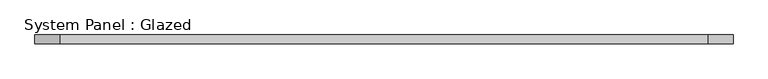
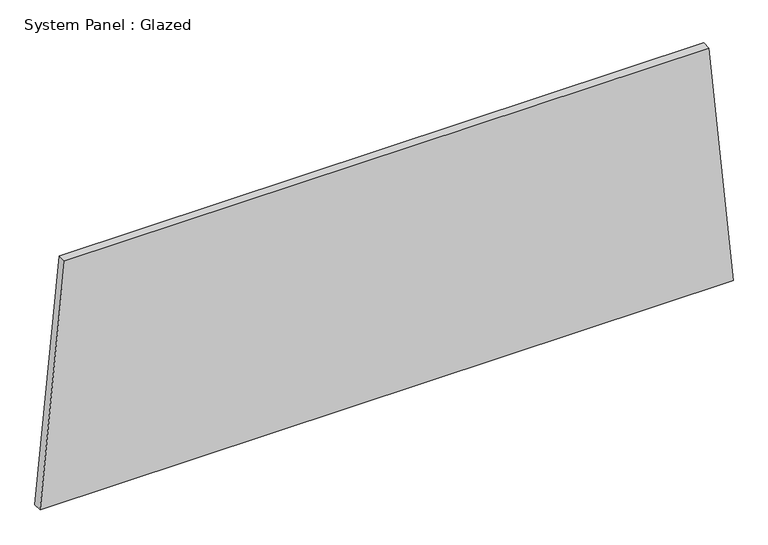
"""IFC4 building model written with IfcOpenShell, lengths in millimetres: plate geometry, System Panel : Glazed."""

from ifc_helpers import new_model, si_unit, frame, origin, place, context, project, spatial, polyline, outline, extrude, source, transform, mapped, element, save


def system_panel_glazed_509ce35e(model_context):
    return source(origin(), model_context, "Body", "SweptSolid", [
        extrude(outline(polyline([(0.0, -997.822278), (0.0, 997.822278), (733.1174891, 927.4907696), (733.1174891, -927.4907696), (0.0, -997.822278)])), frame((0.0, 19.05, 0.0), z_axis=(0.0, 1.0, 0.0), x_axis=(0.0, 0.0, 1.0)), (0.0, 0.0, 1.0), 25.4),
    ])


if __name__ == "__main__":
    model = new_model("IFC4")
    model_context = context("Model", 3, world=origin())
    ifc_project = project(units=[si_unit("LENGTHUNIT", "METRE", prefix="MILLI")], contexts=[model_context])
    site = spatial("IfcSite", under=ifc_project)
    building = spatial("IfcBuilding", under=site)
    placement = place(None, origin())
    system_panel_glazed_shape = system_panel_glazed_509ce35e(model_context)
    element("IfcPlate", 1, ObjectType="System Panel : Glazed", at=placement, inside=building, context=model_context, shape_type="MappedRepresentation", body=[
        mapped(system_panel_glazed_shape, transform((0.0, 0.0, 0.0), x_axis=(1.0, 0.0, 0.0), y_axis=(0.0, 1.0, 0.0), z_axis=(0.0, 0.0, 1.0))),
    ])
    save(model, "model.ifc")
